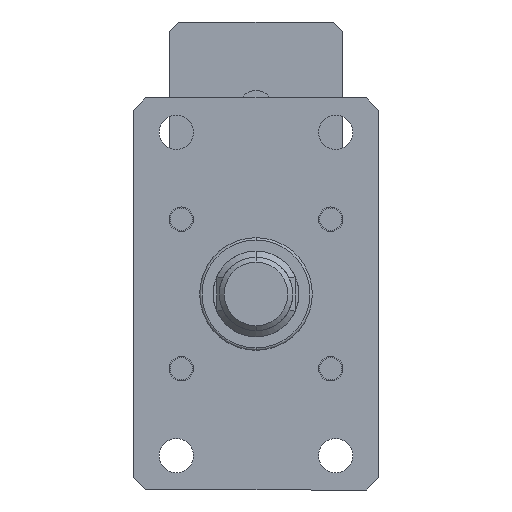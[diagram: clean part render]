
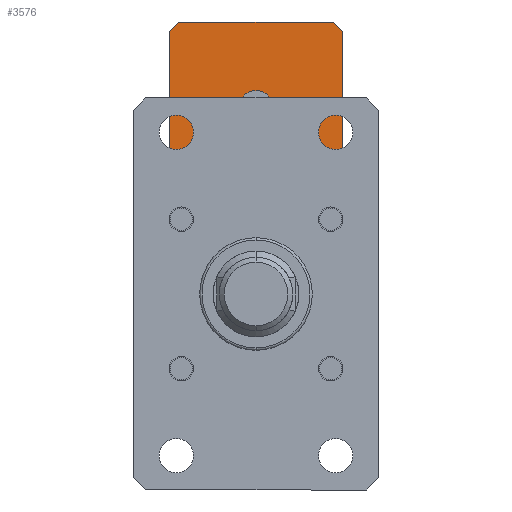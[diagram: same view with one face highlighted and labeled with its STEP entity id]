
A CAD part, front view. The second image highlights one B-rep face of the part: STEP entity #3576.
In plain terms, the highlighted planar face has unit normal (0, -1, 0).
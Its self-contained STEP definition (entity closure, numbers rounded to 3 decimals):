
#11 = DIRECTION ( 'NONE',  ( 0., 0., -1. ) ) ;
#105 = AXIS2_PLACEMENT_3D ( 'NONE', #6694, #3335, #11 ) ;
#165 = VERTEX_POINT ( 'NONE', #474 ) ;
#208 = LINE ( 'NONE', #6169, #2984 ) ;
#273 = CARTESIAN_POINT ( 'NONE',  ( 35.5, 260., 111. ) ) ;
#351 = AXIS2_PLACEMENT_3D ( 'NONE', #3974, #5119, #1734 ) ;
#463 = CARTESIAN_POINT ( 'NONE',  ( -35.5, 260., 111. ) ) ;
#474 = CARTESIAN_POINT ( 'NONE',  ( 0., 260., 83. ) ) ;
#513 = ORIENTED_EDGE ( 'NONE', *, *, #6320, .F. ) ;
#921 = EDGE_CURVE ( 'NONE', #5517, #1021, #6463, .T. ) ;
#1021 = VERTEX_POINT ( 'NONE', #3286 ) ;
#1062 = CARTESIAN_POINT ( 'NONE',  ( 31.5, 260., 40. ) ) ;
#1128 = VERTEX_POINT ( 'NONE', #1924 ) ;
#1244 = VECTOR ( 'NONE', #1697, 1000. ) ;
#1304 = LINE ( 'NONE', #463, #2615 ) ;
#1333 = VECTOR ( 'NONE', #3983, 1000. ) ;
#1666 = CARTESIAN_POINT ( 'NONE',  ( -35.5, 260., 40. ) ) ;
#1697 = DIRECTION ( 'NONE',  ( 1., 0., 0. ) ) ;
#1734 = DIRECTION ( 'NONE',  ( 0., 0., 1. ) ) ;
#1924 = CARTESIAN_POINT ( 'NONE',  ( 35.5, 260., 107. ) ) ;
#2140 = CARTESIAN_POINT ( 'NONE',  ( 0., 260., 75.5 ) ) ;
#2144 = VERTEX_POINT ( 'NONE', #5633 ) ;
#2266 = CARTESIAN_POINT ( 'NONE',  ( -31.5, 260., 111. ) ) ;
#2270 = CIRCLE ( 'NONE', #105, 7.5 ) ;
#2415 = VERTEX_POINT ( 'NONE', #4736 ) ;
#2511 = CARTESIAN_POINT ( 'NONE',  ( 35.5, 260., 44. ) ) ;
#2555 = EDGE_CURVE ( 'NONE', #6465, #2415, #1304, .T. ) ;
#2562 = VECTOR ( 'NONE', #4547, 1000. ) ;
#2563 = LINE ( 'NONE', #273, #5384 ) ;
#2566 = EDGE_LOOP ( 'NONE', ( #3753, #4715, #5226, #3667, #513, #7048, #4776, #4708 ) ) ;
#2615 = VECTOR ( 'NONE', #4360, 1000. ) ;
#2701 = DIRECTION ( 'NONE',  ( 0., 0., -1. ) ) ;
#2984 = VECTOR ( 'NONE', #6739, 1000. ) ;
#3038 = DIRECTION ( 'NONE',  ( 0.707, 0., -0.707 ) ) ;
#3224 = CARTESIAN_POINT ( 'NONE',  ( -31.5, 260., 40. ) ) ;
#3286 = CARTESIAN_POINT ( 'NONE',  ( 35.5, 260., 44. ) ) ;
#3335 = DIRECTION ( 'NONE',  ( 0., -1., 0. ) ) ;
#3410 = CARTESIAN_POINT ( 'NONE',  ( -31.5, 260., 111. ) ) ;
#3576 = ADVANCED_FACE ( 'NONE', ( #4059, #3881 ), #4551, .F. ) ;
#3667 = ORIENTED_EDGE ( 'NONE', *, *, #921, .T. ) ;
#3753 = ORIENTED_EDGE ( 'NONE', *, *, #2555, .T. ) ;
#3881 = FACE_OUTER_BOUND ( 'NONE', #2566, .T. ) ;
#3960 = VERTEX_POINT ( 'NONE', #6868 ) ;
#3974 = CARTESIAN_POINT ( 'NONE',  ( -35.5, 260., 111. ) ) ;
#3983 = DIRECTION ( 'NONE',  ( -0.707, 0., -0.707 ) ) ;
#4031 = LINE ( 'NONE', #6185, #2562 ) ;
#4034 = LINE ( 'NONE', #6950, #5540 ) ;
#4057 = EDGE_LOOP ( 'NONE', ( #6765, #6945 ) ) ;
#4059 = FACE_BOUND ( 'NONE', #4057, .T. ) ;
#4246 = LINE ( 'NONE', #1666, #1244 ) ;
#4360 = DIRECTION ( 'NONE',  ( 0., 0., -1. ) ) ;
#4547 = DIRECTION ( 'NONE',  ( -0.707, 0., 0.707 ) ) ;
#4551 = PLANE ( 'NONE',  #351 ) ;
#4621 = VERTEX_POINT ( 'NONE', #3224 ) ;
#4708 = ORIENTED_EDGE ( 'NONE', *, *, #7187, .T. ) ;
#4715 = ORIENTED_EDGE ( 'NONE', *, *, #6314, .T. ) ;
#4736 = CARTESIAN_POINT ( 'NONE',  ( -35.5, 260., 44. ) ) ;
#4776 = ORIENTED_EDGE ( 'NONE', *, *, #7156, .F. ) ;
#4987 = VECTOR ( 'NONE', #5326, 1000. ) ;
#5119 = DIRECTION ( 'NONE',  ( 0., 1., 0. ) ) ;
#5183 = EDGE_CURVE ( 'NONE', #4621, #5517, #4246, .T. ) ;
#5226 = ORIENTED_EDGE ( 'NONE', *, *, #5183, .T. ) ;
#5286 = AXIS2_PLACEMENT_3D ( 'NONE', #2140, #6041, #2701 ) ;
#5299 = CIRCLE ( 'NONE', #5286, 7.5 ) ;
#5312 = DIRECTION ( 'NONE',  ( 0., 0., -1. ) ) ;
#5326 = DIRECTION ( 'NONE',  ( 0.707, 0., 0.707 ) ) ;
#5384 = VECTOR ( 'NONE', #5312, 1000. ) ;
#5469 = EDGE_CURVE ( 'NONE', #165, #3960, #5299, .T. ) ;
#5517 = VERTEX_POINT ( 'NONE', #1062 ) ;
#5540 = VECTOR ( 'NONE', #3038, 1000. ) ;
#5631 = VERTEX_POINT ( 'NONE', #2266 ) ;
#5633 = CARTESIAN_POINT ( 'NONE',  ( 31.5, 260., 111. ) ) ;
#5638 = EDGE_CURVE ( 'NONE', #1128, #2144, #4031, .T. ) ;
#5986 = CARTESIAN_POINT ( 'NONE',  ( -35.5, 260., 107. ) ) ;
#6041 = DIRECTION ( 'NONE',  ( 0., -1., 0. ) ) ;
#6169 = CARTESIAN_POINT ( 'NONE',  ( -35.5, 260., 111. ) ) ;
#6185 = CARTESIAN_POINT ( 'NONE',  ( 31.5, 260., 111. ) ) ;
#6298 = LINE ( 'NONE', #3410, #1333 ) ;
#6314 = EDGE_CURVE ( 'NONE', #2415, #4621, #4034, .T. ) ;
#6320 = EDGE_CURVE ( 'NONE', #1128, #1021, #2563, .T. ) ;
#6463 = LINE ( 'NONE', #2511, #4987 ) ;
#6465 = VERTEX_POINT ( 'NONE', #5986 ) ;
#6581 = EDGE_CURVE ( 'NONE', #3960, #165, #2270, .T. ) ;
#6694 = CARTESIAN_POINT ( 'NONE',  ( 0., 260., 75.5 ) ) ;
#6739 = DIRECTION ( 'NONE',  ( 1., 0., 0. ) ) ;
#6765 = ORIENTED_EDGE ( 'NONE', *, *, #6581, .F. ) ;
#6868 = CARTESIAN_POINT ( 'NONE',  ( 0., 260., 68. ) ) ;
#6945 = ORIENTED_EDGE ( 'NONE', *, *, #5469, .F. ) ;
#6950 = CARTESIAN_POINT ( 'NONE',  ( -35.5, 260., 44. ) ) ;
#7048 = ORIENTED_EDGE ( 'NONE', *, *, #5638, .T. ) ;
#7156 = EDGE_CURVE ( 'NONE', #5631, #2144, #208, .T. ) ;
#7187 = EDGE_CURVE ( 'NONE', #5631, #6465, #6298, .T. ) ;
